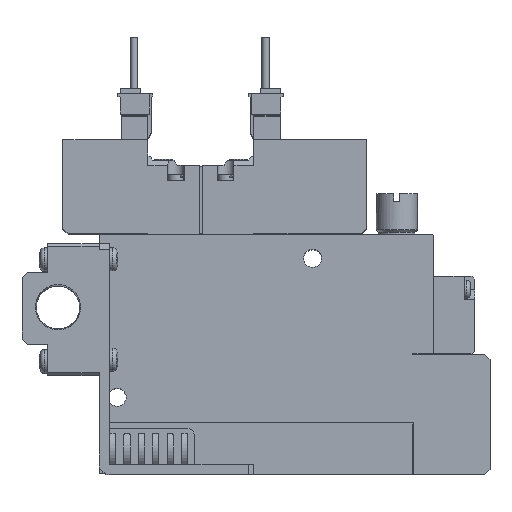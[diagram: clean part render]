
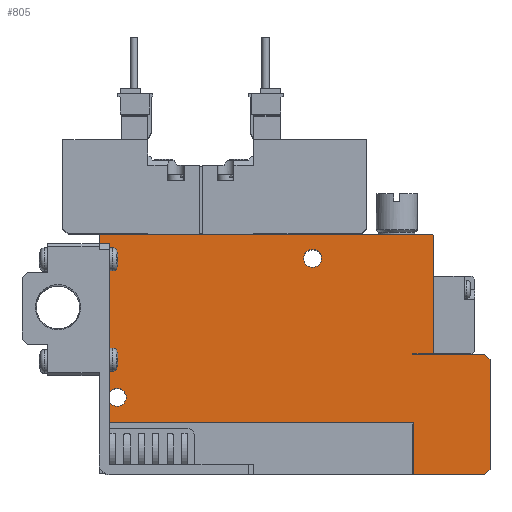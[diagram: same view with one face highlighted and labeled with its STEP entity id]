
A CAD part, top view. The second image highlights one B-rep face of the part: STEP entity #805.
In plain terms, the highlighted planar face has unit normal (0, 0, 1).
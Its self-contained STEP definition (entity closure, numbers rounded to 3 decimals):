
#805=ADVANCED_FACE('',(#1841,#1842,#1843),#1844,.F.);
#1841=FACE_OUTER_BOUND('',#3330,.T.);
#1842=FACE_BOUND('',#3331,.T.);
#1843=FACE_BOUND('',#3332,.T.);
#1844=PLANE('',#3333);
#3330=EDGE_LOOP('',(#6935,#6936,#6937,#6938,#6939,#6940,#6941,#6942,#6943,#6944,#6945,#6946,#6947,#6948));
#3331=EDGE_LOOP('',(#6949));
#3332=EDGE_LOOP('',(#6950));
#3333=AXIS2_PLACEMENT_3D('',#6951,#6952,#6953);
#6935=ORIENTED_EDGE('',*,*,#10335,.T.);
#6936=ORIENTED_EDGE('',*,*,#10032,.F.);
#6937=ORIENTED_EDGE('',*,*,#10326,.F.);
#6938=ORIENTED_EDGE('',*,*,#10336,.T.);
#6939=ORIENTED_EDGE('',*,*,#10337,.T.);
#6940=ORIENTED_EDGE('',*,*,#10165,.T.);
#6941=ORIENTED_EDGE('',*,*,#10162,.T.);
#6942=ORIENTED_EDGE('',*,*,#10168,.T.);
#6943=ORIENTED_EDGE('',*,*,#10013,.T.);
#6944=ORIENTED_EDGE('',*,*,#10216,.T.);
#6945=ORIENTED_EDGE('',*,*,#10017,.T.);
#6946=ORIENTED_EDGE('',*,*,#10338,.T.);
#6947=ORIENTED_EDGE('',*,*,#10339,.T.);
#6948=ORIENTED_EDGE('',*,*,#10333,.T.);
#6949=ORIENTED_EDGE('',*,*,#10340,.F.);
#6950=ORIENTED_EDGE('',*,*,#10186,.F.);
#6951=CARTESIAN_POINT('',(0.0,0.0,5.0));
#6952=DIRECTION('',(0.0,0.0,-1.0));
#6953=DIRECTION('',(0.0,-1.0,0.0));
#10013=EDGE_CURVE('',#12113,#12111,#12114,.T.);
#10017=EDGE_CURVE('',#12121,#12119,#12122,.T.);
#10032=EDGE_CURVE('',#12150,#12151,#12152,.T.);
#10162=EDGE_CURVE('',#12392,#12390,#12393,.T.);
#10165=EDGE_CURVE('',#12397,#12392,#12398,.T.);
#10168=EDGE_CURVE('',#12390,#12113,#12401,.T.);
#10186=EDGE_CURVE('',#12430,#12430,#12431,.T.);
#10216=EDGE_CURVE('',#12111,#12121,#12480,.T.);
#10326=EDGE_CURVE('',#12659,#12150,#12661,.T.);
#10333=EDGE_CURVE('',#12671,#12669,#12672,.T.);
#10335=EDGE_CURVE('',#12669,#12151,#12674,.T.);
#10336=EDGE_CURVE('',#12659,#12675,#12676,.T.);
#10337=EDGE_CURVE('',#12675,#12397,#12677,.T.);
#10338=EDGE_CURVE('',#12119,#12678,#12679,.T.);
#10339=EDGE_CURVE('',#12678,#12671,#12680,.T.);
#10340=EDGE_CURVE('',#12681,#12681,#12682,.T.);
#12111=VERTEX_POINT('',#15543);
#12113=VERTEX_POINT('',#15546);
#12114=LINE('',#15547,#15548);
#12119=VERTEX_POINT('',#15555);
#12121=VERTEX_POINT('',#15558);
#12122=LINE('',#15559,#15560);
#12150=VERTEX_POINT('',#15601);
#12151=VERTEX_POINT('',#15602);
#12152=LINE('',#15603,#15604);
#12390=VERTEX_POINT('',#16064);
#12392=VERTEX_POINT('',#16067);
#12393=LINE('',#16068,#16069);
#12397=VERTEX_POINT('',#16075);
#12398=LINE('',#16076,#16077);
#12401=LINE('',#16082,#16083);
#12430=VERTEX_POINT('',#16168);
#12431=CIRCLE('',#16169,1.75);
#12480=LINE('',#16257,#16258);
#12659=VERTEX_POINT('',#16527);
#12661=LINE('',#16530,#16531);
#12669=VERTEX_POINT('',#16543);
#12671=VERTEX_POINT('',#16546);
#12672=LINE('',#16547,#16548);
#12674=LINE('',#16551,#16552);
#12675=VERTEX_POINT('',#16553);
#12676=LINE('',#16554,#16555);
#12677=LINE('',#16556,#16557);
#12678=VERTEX_POINT('',#16558);
#12679=LINE('',#16559,#16560);
#12680=LINE('',#16561,#16562);
#12681=VERTEX_POINT('',#16563);
#12682=CIRCLE('',#16564,1.75);
#15543=CARTESIAN_POINT('',(61.0,23.5,5.0));
#15546=CARTESIAN_POINT('',(61.0,23.25,5.0));
#15547=CARTESIAN_POINT('',(61.0,23.25,5.0));
#15548=VECTOR('',#19673,1.0);
#15555=CARTESIAN_POINT('',(65.0,46.4,5.0));
#15558=CARTESIAN_POINT('',(65.0,23.5,5.0));
#15559=CARTESIAN_POINT('',(65.0,23.5,5.0));
#15560=VECTOR('',#19677,1.0);
#15601=CARTESIAN_POINT('',(61.1,10.1,5.0));
#15602=CARTESIAN_POINT('',(0.0,10.1,5.0));
#15603=CARTESIAN_POINT('',(61.1,10.1,5.0));
#15604=VECTOR('',#19694,1.0);
#16064=CARTESIAN_POINT('',(75.0,23.25,5.0));
#16067=CARTESIAN_POINT('',(76.0,22.25,5.0));
#16068=CARTESIAN_POINT('',(76.0,22.25,5.0));
#16069=VECTOR('',#19877,1.0);
#16075=CARTESIAN_POINT('',(76.0,1.0,5.0));
#16076=CARTESIAN_POINT('',(76.0,1.0,5.0));
#16077=VECTOR('',#19880,1.0);
#16082=CARTESIAN_POINT('',(75.0,23.25,5.0));
#16083=VECTOR('',#19883,1.0);
#16168=CARTESIAN_POINT('',(43.25,42.0,5.0));
#16169=AXIS2_PLACEMENT_3D('',#19902,#19903,#19904);
#16257=CARTESIAN_POINT('',(61.0,23.5,5.0));
#16258=VECTOR('',#19946,1.0);
#16527=CARTESIAN_POINT('',(61.1,0.0,5.0));
#16530=CARTESIAN_POINT('',(61.1,0.0,5.0));
#16531=VECTOR('',#20092,1.0);
#16543=CARTESIAN_POINT('',(0.0,46.4,5.0));
#16546=CARTESIAN_POINT('',(0.2,46.6,5.0));
#16547=CARTESIAN_POINT('',(0.2,46.6,5.0));
#16548=VECTOR('',#20101,1.0);
#16551=CARTESIAN_POINT('',(0.0,46.4,5.0));
#16552=VECTOR('',#20103,1.0);
#16553=CARTESIAN_POINT('',(75.0,0.0,5.0));
#16554=CARTESIAN_POINT('',(0.0,0.0,5.0));
#16555=VECTOR('',#20104,1.0);
#16556=CARTESIAN_POINT('',(75.0,0.0,5.0));
#16557=VECTOR('',#20105,1.0);
#16558=CARTESIAN_POINT('',(64.8,46.6,5.0));
#16559=CARTESIAN_POINT('',(65.0,46.4,5.0));
#16560=VECTOR('',#20106,1.0);
#16561=CARTESIAN_POINT('',(64.8,46.6,5.0));
#16562=VECTOR('',#20107,1.0);
#16563=CARTESIAN_POINT('',(5.25,15.0,5.0));
#16564=AXIS2_PLACEMENT_3D('',#20108,#20109,#20110);
#19673=DIRECTION('',(0.0,1.0,0.0));
#19677=DIRECTION('',(0.0,1.0,0.0));
#19694=DIRECTION('',(-1.0,0.0,0.0));
#19877=DIRECTION('',(-0.707,0.707,0.0));
#19880=DIRECTION('',(0.0,1.0,0.0));
#19883=DIRECTION('',(-1.0,0.0,0.0));
#19902=CARTESIAN_POINT('',(41.5,42.0,5.0));
#19903=DIRECTION('',(0.0,0.0,1.0));
#19904=DIRECTION('',(1.0,0.0,0.0));
#19946=DIRECTION('',(1.0,0.,0.0));
#20092=DIRECTION('',(0.0,1.0,0.0));
#20101=DIRECTION('',(-0.707,-0.707,0.0));
#20103=DIRECTION('',(0.0,-1.0,0.0));
#20104=DIRECTION('',(1.0,0.0,0.0));
#20105=DIRECTION('',(0.707,0.707,0.0));
#20106=DIRECTION('',(-0.707,0.707,0.0));
#20107=DIRECTION('',(-1.0,0.0,0.0));
#20108=CARTESIAN_POINT('',(3.5,15.0,5.0));
#20109=DIRECTION('',(0.0,0.0,1.0));
#20110=DIRECTION('',(1.0,0.0,0.0));
